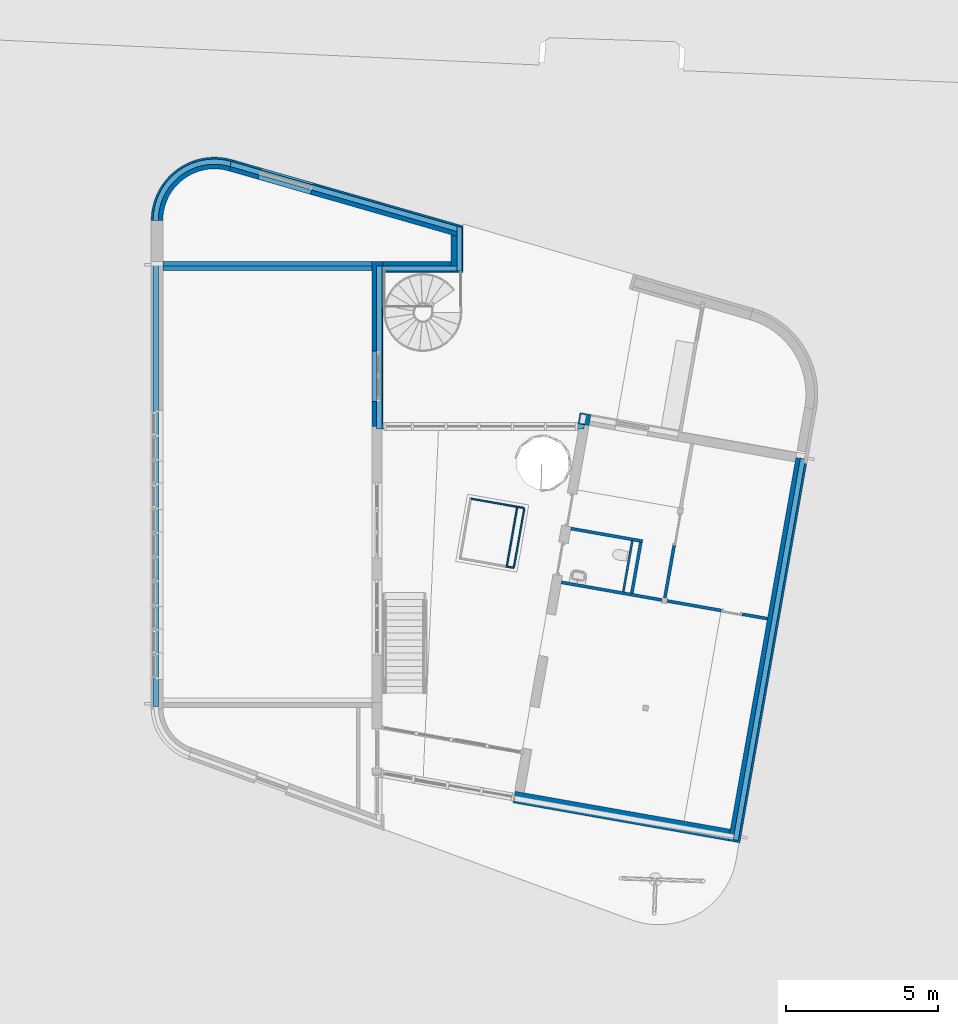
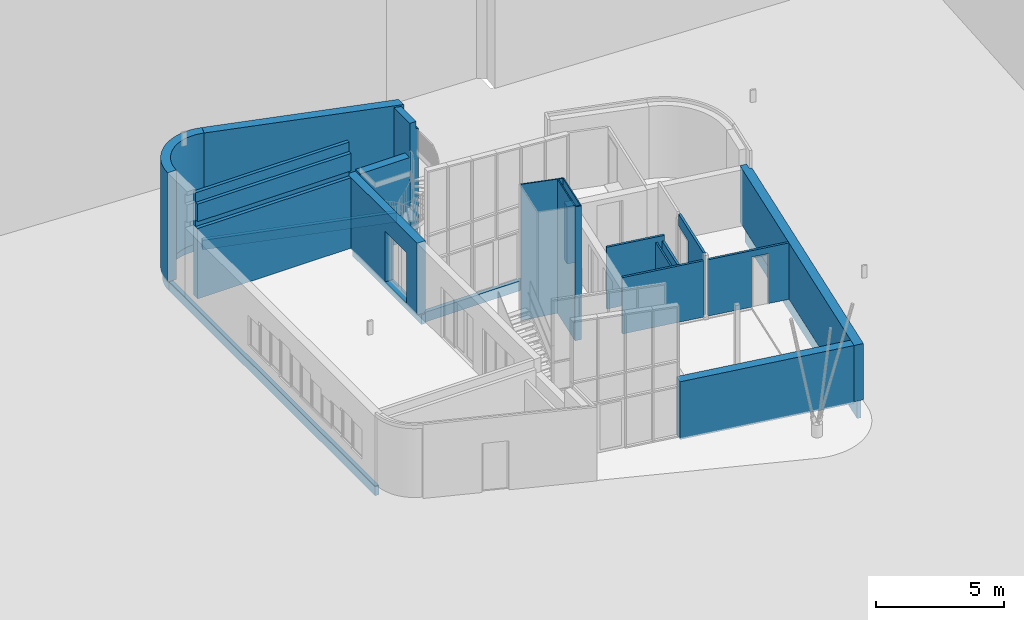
# One storey, part 12 of 21: 30 walls, 5 openings.
"""IFC2X3 building model written with IfcOpenShell, lengths in millimetres."""

import ifcopenshell
import ifcopenshell.guid

model = None  # the IFC model being written
_history = None  # IfcOwnerHistory: only IFC2X3 demands one
_inside = {}  # id of a spatial element -> (the spatial element, [elements in it])
_under = {}  # id of a project, library or spatial element -> (it, [spatial elements below it])
_declared = {}  # id of a project -> (the project, [libraries it declares])
_typed = {}  # id of a type object -> (the type object, [elements of that type])
_made_of = {}  # id of a material, layer set ... -> (it, [elements and type objects made of it])


def new_model(schema):
    """Start an empty IFC model of exactly this schema.

    Asked for "IFC4X3", IfcOpenShell would pick the latest addendum, in which some entities
    have other attributes; the version numbers below select the first issue.
    IFC2X3 requires an IfcOwnerHistory on every rooted entity: one is made here for all.
    """
    global model, _history
    if schema == "IFC4X3":
        model = ifcopenshell.file(schema_version=(4, 3, 0, 0))
    else:
        model = ifcopenshell.file(schema=schema)
    _inside.clear()
    _under.clear()
    _declared.clear()
    _typed.clear()
    _made_of.clear()
    _history = None
    if model.schema == "IFC2X3":
        org = make("IfcOrganization", Name="unknown")
        user = make(
            "IfcPersonAndOrganization",
            ThePerson=make("IfcPerson", FamilyName="unknown"),
            TheOrganization=org,
        )
        app = make(
            "IfcApplication",
            ApplicationDeveloper=org,
            Version="unknown",
            ApplicationFullName="unknown",
            ApplicationIdentifier="unknown",
        )
        _history = make(
            "IfcOwnerHistory",
            OwningUser=user,
            OwningApplication=app,
            ChangeAction="ADDED",
            CreationDate=0,
        )
    return model


def make(cls, **values):
    """One entity of the class cls with the attributes given. An attribute that is None is left unset."""
    return model.create_entity(
        cls, **{name: value for name, value in values.items() if value is not None}
    )


def entity(cls, *values):
    """Any entity or typed value of the class cls, its attributes in the order of the schema. None: left unset."""
    e = model.create_entity(cls)
    for i, value in enumerate(values):
        if value is not None:
            e[i] = value
    return e


def rooted(cls, **values):
    """An entity with a GlobalId (a new one), such as an element, a storey or a relation."""
    return make(cls, GlobalId=ifcopenshell.guid.new(), OwnerHistory=_history, **values)


def si_unit(unit_type, name, prefix=None):
    """IfcSIUnit, for example si_unit("LENGTHUNIT", "METRE", prefix="MILLI")."""
    return make("IfcSIUnit", UnitType=unit_type, Prefix=prefix, Name=name)


def converted_unit(unit_type, name, factor, base, dimensions=None, offset=None):
    """IfcConversionBasedUnit, such as the inch: factor (a typed value) times the base unit."""
    return make(
        "IfcConversionBasedUnit"
        if offset is None
        else "IfcConversionBasedUnitWithOffset",
        ConversionOffset=offset,
        Dimensions=None
        if dimensions is None
        else entity("IfcDimensionalExponents", *dimensions),
        UnitType=unit_type,
        Name=name,
        ConversionFactor=make(
            "IfcMeasureWithUnit", ValueComponent=factor, UnitComponent=base
        ),
    )


def derived_unit(unit_type, elements):
    """IfcDerivedUnit: a product of units, each with its exponent."""
    return make(
        "IfcDerivedUnit",
        Elements=[
            make("IfcDerivedUnitElement", Unit=unit, Exponent=power)
            for unit, power in elements
        ],
        UnitType=unit_type,
    )


def assignment(units):
    """IfcUnitAssignment: the units of a project."""
    return None if units is None else make("IfcUnitAssignment", Units=units)


def point(xyz):
    """IfcCartesianPoint."""
    return None if xyz is None else make("IfcCartesianPoint", Coordinates=xyz)


def direction(xyz):
    """IfcDirection."""
    return None if xyz is None else make("IfcDirection", DirectionRatios=xyz)


def frame(location, z_axis=None, x_axis=None):
    """IfcAxis2Placement3D, a coordinate frame: its origin and axes. An axis left out is left unset."""
    return make(
        "IfcAxis2Placement3D",
        Location=point(location),
        Axis=direction(z_axis),
        RefDirection=direction(x_axis),
    )


def frame_2d(location, x_axis=None):
    """IfcAxis2Placement2D, a coordinate frame in the plane: its origin and x axis."""
    return make(
        "IfcAxis2Placement2D", Location=point(location), RefDirection=direction(x_axis)
    )


def origin():
    """The frame at (0, 0, 0) with its axes left unset."""
    return frame((0.0, 0.0, 0.0))


def place(relative_to, where):
    """IfcLocalPlacement: puts the frame where relative to a parent placement (None: the world)."""
    return make(
        "IfcLocalPlacement", PlacementRelTo=relative_to, RelativePlacement=where
    )


def context(
    kind, dimensions, precision=None, world=None, true_north=None, identifier=None
):
    """IfcGeometricRepresentationContext, for example the 3D "Model" context."""
    return make(
        "IfcGeometricRepresentationContext",
        ContextIdentifier=identifier,
        ContextType=kind,
        CoordinateSpaceDimension=dimensions,
        Precision=precision,
        WorldCoordinateSystem=world,
        TrueNorth=true_north,
    )


def subcontext(parent, identifier, kind, view, scale=None):
    """IfcGeometricRepresentationSubContext, for example "Body" below "Model"."""
    return make(
        "IfcGeometricRepresentationSubContext",
        ContextIdentifier=identifier,
        ContextType=kind,
        ParentContext=parent,
        TargetScale=scale,
        TargetView=view,
    )


def project(units=None, contexts=None):
    """IfcProject with its units and contexts."""
    return rooted(
        "IfcProject",
        Name="project",
        RepresentationContexts=contexts,
        UnitsInContext=assignment(units),
    )


def spatial(cls, under=None, at=None, **own):
    """A site, building, storey or space (cls), placed at a placement, below another one or the project."""
    s = rooted(cls, ObjectPlacement=at, **own)
    if under is not None:
        _under.setdefault(under.id(), (under, []))[1].append(s)
    return s


def polyline(points):
    """IfcPolyline through the points."""
    return make("IfcPolyline", Points=[point(p) for p in points])


def circle_curve(where, radius):
    """IfcCircle in the frame where."""
    return make("IfcCircle", Position=where, Radius=radius)


def parameter(value):
    """IfcParameterValue: where a trimmed curve begins or ends, as a parameter of its basis curve."""
    return model.create_entity("IfcParameterValue", value)


def trimmed(basis, trim1, trim2, sense, master):
    """IfcTrimmedCurve: the piece of a basis curve between two trims."""
    return make(
        "IfcTrimmedCurve",
        BasisCurve=basis,
        Trim1=trim1,
        Trim2=trim2,
        SenseAgreement=sense,
        MasterRepresentation=master,
    )


def segment(curve, same_sense, transition):
    """IfcCompositeCurveSegment."""
    return make(
        "IfcCompositeCurveSegment",
        Transition=transition,
        SameSense=same_sense,
        ParentCurve=curve,
    )


def composite_curve(segments, self_intersect=None):
    """IfcCompositeCurve: segments joined end to end."""
    return make("IfcCompositeCurve", Segments=segments, SelfIntersect=self_intersect)


def profile(cls, at=None, kind="AREA", **sizes):
    """A parametric profile (cls). Its sizes go by their IFC names, for example OverallWidth=200.0."""
    return make(cls, ProfileType=kind, Position=at, **sizes)


def rectangle(**sizes):
    """IfcRectangleProfileDef."""
    return profile("IfcRectangleProfileDef", **sizes)


def outline(outer, holes=None, kind="AREA"):
    """IfcArbitraryClosedProfileDef: a profile drawn as a closed curve; with holes, ...WithVoids."""
    if holes is None:
        return make("IfcArbitraryClosedProfileDef", ProfileType=kind, OuterCurve=outer)
    return make(
        "IfcArbitraryProfileDefWithVoids",
        ProfileType=kind,
        OuterCurve=outer,
        InnerCurves=holes,
    )


def extrude(swept, where, along, depth):
    """IfcExtrudedAreaSolid: the profile swept, set in the frame where, extruded along a direction by depth."""
    return make(
        "IfcExtrudedAreaSolid",
        SweptArea=swept,
        Position=where,
        ExtrudedDirection=direction(along),
        Depth=depth,
    )


def clip(a, b, op="DIFFERENCE"):
    """IfcBooleanClippingResult: the solid a cut by the half space b."""
    return make(
        "IfcBooleanClippingResult", Operator=op, FirstOperand=a, SecondOperand=b
    )


def bounded_halfspace(plane, agree, where, boundary):
    """IfcPolygonalBoundedHalfSpace: a half space limited to a polygon's prism."""
    return make(
        "IfcPolygonalBoundedHalfSpace",
        BaseSurface=make("IfcPlane", Position=plane),
        AgreementFlag=agree,
        Position=where,
        PolygonalBoundary=boundary,
    )


def shape(context_of_items, identifier, shape_type, items):
    """IfcShapeRepresentation: the items that make up one representation, for example the "Body"."""
    return make(
        "IfcShapeRepresentation",
        ContextOfItems=context_of_items,
        RepresentationIdentifier=identifier,
        RepresentationType=shape_type,
        Items=items,
    )


def material(Name=None, Category=None):
    """IfcMaterial."""
    return make("IfcMaterial", Name=Name, Category=Category)


def layer(
    of_material, thickness, ventilated=None, Name=None, Category=None, Priority=None
):
    """IfcMaterialLayer: one layer of a wall or slab, of a material (None: an air gap)."""
    return make(
        "IfcMaterialLayer",
        Material=of_material,
        LayerThickness=thickness,
        IsVentilated=ventilated,
        Name=Name,
        Category=Category,
        Priority=Priority,
    )


def layer_set(layers, Name=None):
    """IfcMaterialLayerSet."""
    return make("IfcMaterialLayerSet", MaterialLayers=layers, LayerSetName=Name)


def layer_usage(for_layer_set, set_direction, sense, offset, extent=None):
    """IfcMaterialLayerSetUsage: how a layer set lies in its element."""
    return make(
        "IfcMaterialLayerSetUsage",
        ForLayerSet=for_layer_set,
        LayerSetDirection=set_direction,
        DirectionSense=sense,
        OffsetFromReferenceLine=offset,
        ReferenceExtent=extent,
    )


def made_of(thing, what):
    """Note that an element or type object is made of a material, layer set ...; save() writes the relation."""
    if what is not None:
        _made_of.setdefault(what.id(), (what, []))[1].append(thing)
    return thing


def type_object(cls, material=None, **own):
    """A type object (cls), such as IfcWallType, which elements share."""
    return made_of(rooted(cls, **own), material)


def element(
    cls,
    number,
    at=None,
    inside=None,
    cuts=None,
    type_object=None,
    material=None,
    context=None,
    identifier="Body",
    shape_type=None,
    held_by="IfcProductDefinitionShape",
    body=None,
    shapes=None,
    **own,
):
    """One element of the class cls, such as IfcWall. Its Tag is "e" and its number.

    at: its placement. inside: the storey or other place that contains it. cuts: it is an
    opening in that element (IfcRelVoidsElement). A single representation is given by context,
    identifier, shape_type and body (its items); several are given by shapes. held_by: the class
    of the entity that holds the representations. save() writes the other relations.
    """
    e = rooted(cls, Tag="e%d" % number, ObjectPlacement=at, **own)
    if body is not None:
        shapes = [shape(context, identifier, shape_type, body)]
    if shapes is not None:
        e.Representation = make(held_by, Representations=shapes)
    if inside is not None:
        _inside.setdefault(inside.id(), (inside, []))[1].append(e)
    if cuts is not None:
        rooted(
            "IfcRelVoidsElement", RelatingBuildingElement=cuts, RelatedOpeningElement=e
        )
    if type_object is not None:
        _typed.setdefault(type_object.id(), (type_object, []))[1].append(e)
    return made_of(e, material)


def aggregate(whole, parts):
    """IfcRelAggregates: a whole, such as a stair, and the parts it consists of."""
    return rooted("IfcRelAggregates", RelatingObject=whole, RelatedObjects=parts)


def save(model, path):
    """Write the relations noted so far, then the file.

    IfcRelAggregates (storeys below a building ...), IfcRelContainedInSpatialStructure (elements
    in a storey), IfcRelDefinesByType, IfcRelAssociatesMaterial and IfcRelDeclares: one each for
    every whole, place, type object, material and project.
    """
    for whole, parts in _under.values():
        aggregate(whole, parts)
    for where, things in _inside.values():
        rooted(
            "IfcRelContainedInSpatialStructure",
            RelatedElements=things,
            RelatingStructure=where,
        )
    for kind, things in _typed.values():
        rooted("IfcRelDefinesByType", RelatedObjects=things, RelatingType=kind)
    for what, things in _made_of.values():
        rooted("IfcRelAssociatesMaterial", RelatedObjects=things, RelatingMaterial=what)
    for by, libraries in _declared.values():
        rooted("IfcRelDeclares", RelatingContext=by, RelatedDefinitions=libraries)
    model.write(path)


model = new_model("IFC2X3")

# Units and contexts
model_context = context("Model", 3, precision=0.01, world=origin(), true_north=direction((6.12303176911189e-17, 1.0)))
body_context = subcontext(model_context, "Body", "Model", "MODEL_VIEW")
ifc_project = project(units=[si_unit("LENGTHUNIT", "METRE", prefix="MILLI"), si_unit("AREAUNIT", "SQUARE_METRE"), si_unit("VOLUMEUNIT", "CUBIC_METRE"), converted_unit("PLANEANGLEUNIT", "DEGREE", entity("IfcRatioMeasure", 0.0174532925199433), si_unit("PLANEANGLEUNIT", "RADIAN"), dimensions=[0, 0, 0, 0, 0, 0, 0]), si_unit("MASSUNIT", "GRAM", prefix="KILO"), derived_unit("MASSDENSITYUNIT", [(si_unit("MASSUNIT", "GRAM", prefix="KILO"), 1), (si_unit("LENGTHUNIT", "METRE"), -3)]), derived_unit("MOMENTOFINERTIAUNIT", [(si_unit("LENGTHUNIT", "METRE"), 4)]), si_unit("TIMEUNIT", "SECOND"), si_unit("FREQUENCYUNIT", "HERTZ"), si_unit("THERMODYNAMICTEMPERATUREUNIT", "DEGREE_CELSIUS"), derived_unit("THERMALTRANSMITTANCEUNIT", [(si_unit("MASSUNIT", "GRAM", prefix="KILO"), 1), (si_unit("THERMODYNAMICTEMPERATUREUNIT", "KELVIN"), -1), (si_unit("TIMEUNIT", "SECOND"), -3)]), derived_unit("VOLUMETRICFLOWRATEUNIT", [(si_unit("LENGTHUNIT", "METRE"), 3), (si_unit("TIMEUNIT", "SECOND"), -1)]), si_unit("ELECTRICCURRENTUNIT", "AMPERE"), si_unit("ELECTRICVOLTAGEUNIT", "VOLT"), si_unit("POWERUNIT", "WATT"), si_unit("FORCEUNIT", "NEWTON", prefix="KILO"), si_unit("ILLUMINANCEUNIT", "LUX"), si_unit("LUMINOUSFLUXUNIT", "LUMEN"), si_unit("LUMINOUSINTENSITYUNIT", "CANDELA"), derived_unit("USERDEFINED", [(si_unit("MASSUNIT", "GRAM", prefix="KILO"), -1), (si_unit("LENGTHUNIT", "METRE"), -2), (si_unit("TIMEUNIT", "SECOND"), 3), (si_unit("LUMINOUSFLUXUNIT", "LUMEN"), 1)]), derived_unit("LINEARVELOCITYUNIT", [(si_unit("LENGTHUNIT", "METRE"), 1), (si_unit("TIMEUNIT", "SECOND"), -1)]), si_unit("PRESSUREUNIT", "PASCAL"), derived_unit("USERDEFINED", [(si_unit("LENGTHUNIT", "METRE"), -2), (si_unit("MASSUNIT", "GRAM", prefix="KILO"), 1), (si_unit("TIMEUNIT", "SECOND"), -2)]), derived_unit("LINEARFORCEUNIT", [(si_unit("MASSUNIT", "GRAM", prefix="KILO"), 1), (si_unit("LENGTHUNIT", "METRE"), 1), (si_unit("TIMEUNIT", "SECOND"), -2), (si_unit("LENGTHUNIT", "METRE"), -1)]), derived_unit("PLANARFORCEUNIT", [(si_unit("MASSUNIT", "GRAM", prefix="KILO"), 1), (si_unit("LENGTHUNIT", "METRE"), 1), (si_unit("TIMEUNIT", "SECOND"), -2), (si_unit("LENGTHUNIT", "METRE"), -2)])], contexts=[model_context])

# Site, building, storey
site_placement = place(None, origin())
site = spatial("IfcSite", under=ifc_project, at=site_placement, Name="<Kadaster Gemeente>;<Kadaster nummer>;<Kadaster sectie>", CompositionType="ELEMENT")
building_placement = place(site_placement, origin())
building = spatial("IfcBuilding", under=site, at=building_placement, Name="JRCZ Middelburg", CompositionType="ELEMENT")
storey_placement = place(building_placement, origin())
storey = spatial("IfcBuildingStorey", under=building, at=storey_placement, Name="00 begane grond", CompositionType="ELEMENT", Elevation=0.0)

# Walls
ifc_material_1 = material(Name="RBM_n7_isolatie_hsb_100")
ifc_layer_1 = layer(ifc_material_1, 100.0)
ifc_layer_set_1 = layer_set([ifc_layer_1], Name="Basic Wall:22_WA_metalstud_binnenwand_100mm")
ifc_layer_usage_1 = layer_usage(ifc_layer_set_1, "AXIS2", "NEGATIVE", 50.0)
wall_type_1 = type_object("IfcWallType", Name="Basic Wall:22_WA_metalstud_binnenwand_100mm", PredefinedType="STANDARD", material=ifc_layer_set_1)
wall_1_placement = place(storey_placement, frame((23448.3603228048, 15764.5948268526, 0.0), z_axis=(0.0, 0.0, 1.0), x_axis=(0.984807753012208, -0.173648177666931, 0.0)))
element("IfcWallStandardCase", 1, at=wall_1_placement, inside=storey, type_object=wall_type_1, material=ifc_layer_usage_1, Name="Basic Wall:22_WA_metalstud_binnenwand_100mm", ObjectType="Basic Wall:22_WA_metalstud_binnenwand_100mm", context=body_context, shape_type="Clipping", body=[
    clip(extrude(rectangle(XDim=2400.0, YDim=100.0, at=frame_2d((1356.0, -2.20268248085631e-13), x_axis=(-1.0, 0.0))), origin(), (0.0, 0.0, 1.0), 2936.0), bounded_halfspace(frame((0.0, -50.0, 2936.0), z_axis=(0.0, 0.0, -1.0), x_axis=(0.0, -1.0, 0.0)), True, frame((0.0, -50.0, 2936.0)), polyline([(0.0, 0.0), (2556.0, 0.0), (2556.0, 100.0), (0.0, 100.0), (0.0, 0.0)]))),
])
ifc_layer_usage_2 = layer_usage(ifc_layer_set_1, "AXIS2", "NEGATIVE", 50.0)
wall_2_placement = place(storey_placement, frame((25907.60614297, 15280.1921059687, 0.0), z_axis=(0.0, 0.0, 1.0), x_axis=(-0.173648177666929, -0.984807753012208, 0.0)))
element("IfcWallStandardCase", 2, at=wall_2_placement, inside=storey, type_object=wall_type_1, material=ifc_layer_usage_2, Name="Basic Wall:22_WA_metalstud_binnenwand_100mm", ObjectType="Basic Wall:22_WA_metalstud_binnenwand_100mm", context=body_context, shape_type="SweptSolid", body=[
    extrude(rectangle(XDim=1700.0, YDim=99.999999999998, at=frame_2d((850.000000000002, -7.99360577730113e-13), x_axis=(-1.0, 0.0))), origin(), (0.0, 0.0, 1.0), 2680.0),
])
ifc_layer_usage_3 = layer_usage(ifc_layer_set_1, "AXIS2", "NEGATIVE", 50.0)
wall_3_placement = place(storey_placement, frame((23289.4236124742, 13964.8517557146, 0.0), z_axis=(0.0, 0.0, 1.0), x_axis=(0.984807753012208, -0.173648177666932, 0.0)))
element("IfcWallStandardCase", 3, at=wall_3_placement, inside=storey, type_object=wall_type_1, material=ifc_layer_usage_3, Name="Basic Wall:22_WA_metalstud_binnenwand_100mm", ObjectType="Basic Wall:22_WA_metalstud_binnenwand_100mm", context=body_context, shape_type="SweptSolid", body=[
    extrude(rectangle(XDim=3364.00000000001, YDim=99.9999999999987, at=frame_2d((1682.0, 6.32383034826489e-13), x_axis=(-1.0, 0.0))), origin(), (0.0, 0.0, 1.0), 2680.0),
])

# Wall, opening
ifc_layer_usage_4 = layer_usage(ifc_layer_set_1, "AXIS2", "NEGATIVE", 50.0)
wall_4_placement = place(storey_placement, frame((26779.5822891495, 13349.442614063, 0.0), z_axis=(0.0, 0.0, 1.0), x_axis=(0.984807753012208, -0.173648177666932, 0.0)))
wall_4 = element("IfcWallStandardCase", 4, at=wall_4_placement, inside=storey, type_object=wall_type_1, material=ifc_layer_usage_4, Name="Basic Wall:22_WA_metalstud_binnenwand_100mm", ObjectType="Basic Wall:22_WA_metalstud_binnenwand_100mm", context=body_context, shape_type="SweptSolid", body=[
    extrude(rectangle(XDim=3356.0, YDim=99.9999999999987, at=frame_2d((1678.0, -1.06581410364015e-14), x_axis=(-1.0, 0.0))), origin(), (0.0, 0.0, 1.0), 2680.0),
])
opening_1_placement = place(wall_4_placement, frame((-24054.6338779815, -17796.8602479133, 0.0), z_axis=(0.0, 0.0, 1.0), x_axis=(0.984807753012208, 0.173648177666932, 0.0)))
element("IfcOpeningElement", 5, at=opening_1_placement, cuts=wall_4, Name="Basic Wall:22_WA_metalstud_binnenwand_100mm", ObjectType="Opening", context=body_context, shape_type="SweptSolid", body=[
    extrude(rectangle(XDim=2377.0, YDim=704.000000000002, at=frame_2d((0.0, 2.1316282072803e-12), x_axis=(1.0, 0.0))), frame((28648.8400062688, 11523.1032187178, 1188.5), z_axis=(0.173648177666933, 0.984807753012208, 0.0), x_axis=(0.0, 0.0, 1.0)), (0.0, 0.0, 1.0), 3048.0),
])

ifc_layer_usage_5 = layer_usage(ifc_layer_set_1, "AXIS2", "NEGATIVE", 50.0)
wall_5_placement = place(storey_placement, frame((27194.9312800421, 16246.3282203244, 0.0), z_axis=(0.0, 0.0, 1.0), x_axis=(-0.173648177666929, -0.984807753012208, 0.0)))
wall_5 = element("IfcWallStandardCase", 6, at=wall_5_placement, inside=storey, type_object=wall_type_1, material=ifc_layer_usage_5, Name="Basic Wall:22_WA_metalstud_binnenwand_100mm", ObjectType="Basic Wall:22_WA_metalstud_binnenwand_100mm", context=body_context, shape_type="Clipping", body=[
    clip(extrude(rectangle(XDim=2835.0, YDim=99.9999999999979, at=frame_2d((1417.5, 7.24753590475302e-13), x_axis=(-1.0, 0.0))), origin(), (0.0, 0.0, 1.0), 2936.0), bounded_halfspace(frame((0.0, -50.0, 2936.0), z_axis=(0.0, 0.0, -1.0), x_axis=(1.0, 0.0, 0.0)), True, frame((0.0, -50.0, 2936.0)), polyline([(0.0, 0.0), (2835.0, 0.0), (2835.0, 100.0), (0.0, 100.0), (0.0, 0.0)]))),
])
opening_2_placement = place(wall_5_placement, frame((20721.8602479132, -23960.6338779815, 0.0), z_axis=(0.0, 0.0, 1.0), x_axis=(-0.173648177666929, 0.984807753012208, 0.0)))
element("IfcOpeningElement", 7, at=opening_2_placement, cuts=wall_5, Name="Basic Wall:22_WA_metalstud_binnenwand_100mm", ObjectType="Opening", context=body_context, shape_type="SweptSolid", body=[
    extrude(rectangle(XDim=2377.0, YDim=1084.0, at=frame_2d((0.0, 1.4210854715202e-12), x_axis=(1.0, 0.0))), frame((25550.7265645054, 15985.8846498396, 1188.5), z_axis=(0.984807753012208, -0.17364817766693, 0.0), x_axis=(0.0, 0.0, 1.0)), (0.0, 0.0, 1.0), 3048.0),
])

# Wall
ifc_material_2 = material(Name="RBM_i4_multiplex_beplating")
ifc_layer_2 = layer(ifc_material_2, 18.0)
ifc_material_3 = material(Name="RBM_n7_isolatie_hsb_270")
ifc_layer_3 = layer(ifc_material_3, 270.0)
ifc_layer_4 = layer(ifc_material_2, 18.0)
ifc_layer_set_2 = layer_set([ifc_layer_2, ifc_layer_3, ifc_layer_4], Name="Basic Wall:22_WA_hsb_binnenwand_306mm")
ifc_layer_usage_6 = layer_usage(ifc_layer_set_2, "AXIS2", "POSITIVE", -153.0)
wall_type_2 = type_object("IfcWallType", Name="Basic Wall:22_WA_hsb_binnenwand_306mm", PredefinedType="STANDARD", material=ifc_layer_set_2)
wall_6_placement = place(storey_placement, frame((17050.0, 24397.0, 0.0), z_axis=(0.0, 0.0, 1.0), x_axis=(-1.0, 0.0, 0.0)))
element("IfcWallStandardCase", 8, at=wall_6_placement, inside=storey, type_object=wall_type_2, material=ifc_layer_usage_6, Name="Basic Wall:22_WA_hsb_binnenwand_306mm", ObjectType="Basic Wall:22_WA_hsb_binnenwand_306mm", context=body_context, shape_type="SweptSolid", body=[
    extrude(rectangle(XDim=6900.0, YDim=306.0, at=frame_2d((3450.0, -4.54747350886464e-13), x_axis=(-1.0, 0.0))), origin(), (0.0, 0.0, 1.0), 3345.0),
])

# Wall, opening
ifc_material_4 = material(Name="Gevelafwerking")
ifc_layer_5 = layer(ifc_material_4, 30.0)
ifc_material_5 = material(Name="ISR_Luchtspouw")
ifc_layer_6 = layer(ifc_material_5, 35.0)
ifc_layer_7 = layer(ifc_material_5, 35.0)
ifc_layer_8 = layer(ifc_material_3, 270.0)
ifc_layer_9 = layer(ifc_material_2, 18.0)
ifc_layer_set_3 = layer_set([ifc_layer_5, ifc_layer_6, ifc_layer_7, ifc_layer_8, ifc_layer_9], Name="Basic Wall:21_RBM_WA_hsb_270mm_houten bekleding")
ifc_layer_usage_7 = layer_usage(ifc_layer_set_3, "AXIS2", "NEGATIVE", 194.0)
wall_type_3 = type_object("IfcWallType", Name="Basic Wall:21_RBM_WA_hsb_270mm_houten bekleding", PredefinedType="STANDARD", material=ifc_layer_set_3)
wall_7_placement = place(storey_placement, frame((12395.663829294, 27710.985193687, -70.0), z_axis=(0.0, 0.0, 1.0), x_axis=(0.961261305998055, -0.275638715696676, 0.0)))
wall_7 = element("IfcWallStandardCase", 9, at=wall_7_placement, inside=storey, type_object=wall_type_3, material=ifc_layer_usage_7, Name="Basic Wall:21_RBM_WA_hsb_270mm_houten bekleding", ObjectType="Basic Wall:21_RBM_WA_hsb_270mm_houten bekleding", context=body_context, shape_type="SweptSolid", body=[
    extrude(outline(polyline([(8005.5681991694, -194.0), (7894.3103954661, 194.0), (0.0, 194.0), (0.0, -194.0), (7601.93185431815, -194.0), (8005.5681991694, -194.0)])), origin(), (0.0, 0.0, 1.0), 5200.0),
])
opening_3_placement = place(wall_7_placement, origin())
element("IfcOpeningElement", 10, at=opening_3_placement, cuts=wall_7, Name="Basic Wall:21_RBM_WA_hsb_270mm_houten bekleding", ObjectType="Opening", context=body_context, shape_type="SweptSolid", body=[
    extrude(rectangle(XDim=2400.0, YDim=1799.9999999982, at=frame_2d((0.0, 5.11590769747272e-13), x_axis=(1.0, 0.0))), frame((1881.28126453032, -346.399999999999, 1270.0), z_axis=(0.0, 1.0, 0.0), x_axis=(0.0, 0.0, 1.0)), (0.0, 0.0, 1.0), 692.799999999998),
])

# Walls
ifc_layer_usage_8 = layer_usage(ifc_layer_set_3, "AXIS2", "NEGATIVE", 194.0)
wall_8_placement = place(storey_placement, frame((31240.4390874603, 18204.5834590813, -10.0), z_axis=(0.0, 0.0, 1.0), x_axis=(-0.17364817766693, -0.984807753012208, 0.0)))
element("IfcWallStandardCase", 11, at=wall_8_placement, inside=storey, type_object=wall_type_3, material=ifc_layer_usage_8, Name="Basic Wall:21_RBM_WA_hsb_270mm_houten bekleding", ObjectType="Basic Wall:21_RBM_WA_hsb_270mm_houten bekleding", context=body_context, shape_type="Clipping", body=[
    clip(clip(extrude(rectangle(XDim=12994.0, YDim=387.999999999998, at=frame_2d((6497.0, -1.96109795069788e-12), x_axis=(-1.0, 0.0))), origin(), (0.0, 0.0, 1.0), 2676.0), bounded_halfspace(frame((306.0, 94.0, 2676.0), z_axis=(0.0, -1.0, 0.0), x_axis=(1.0, 0.0, 0.0)), True, frame((306.0, 94.0, 2676.0), z_axis=(0.0, -1.0, 0.0), x_axis=(1.0, 0.0, 0.0)), polyline([(0.0, 0.0), (-306.0, 0.0), (-306.0, -2676.0), (0.0, -2676.0), (0.0, 0.0)]))), bounded_halfspace(frame((306.0, 94.0, 0.0), z_axis=(1.0, 0.0, 0.0), x_axis=(0.0, 1.0, 0.0)), True, frame((306.0, 94.0, 0.0), z_axis=(1.0, 0.0, 0.0), x_axis=(0.0, 1.0, 0.0)), polyline([(0.0, 0.0), (100.0, 0.0), (100.0, 2676.0), (0.0, 2676.0), (0.0, 0.0)]))),
])
ifc_layer_usage_9 = layer_usage(ifc_layer_set_3, "AXIS2", "NEGATIVE", 194.0)
wall_9_placement = place(storey_placement, frame((19843.632860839, 25429.1137671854, -70.0), z_axis=(0.0, 0.0, 1.0), x_axis=(0.0, -1.0, 0.0)))
element("IfcWallStandardCase", 12, at=wall_9_placement, inside=storey, type_object=wall_type_3, material=ifc_layer_usage_9, Name="Basic Wall:21_RBM_WA_hsb_270mm_houten bekleding", ObjectType="Basic Wall:21_RBM_WA_hsb_270mm_houten bekleding", context=body_context, shape_type="Clipping", body=[
    clip(clip(extrude(outline(polyline([(1245.11376718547, -194.0), (1245.11376718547, 194.0), (111.2578037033, 194.0), (0.0, -194.0), (879.11376718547, -194.0), (1245.11376718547, -194.0)])), origin(), (0.0, 0.0, 1.0), 5120.0), bounded_halfspace(frame((1245.11376718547, 94.0, 4770.0), z_axis=(0.0, -1.0, 0.0), x_axis=(1.0, 0.0, 0.0)), True, frame((1245.11376718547, 94.0, 4770.0), z_axis=(0.0, -1.0, 0.0), x_axis=(1.0, 0.0, 0.0)), polyline([(0.0, 0.0), (0.0, 350.0), (-1162.53065515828, 350.0), (-1162.53065515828, 0.0), (0.0, 0.0)]))), bounded_halfspace(frame((82.5831120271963, 94.0, 4770.0), z_axis=(0.0, 0.0, -1.0), x_axis=(0.0, 1.0, 0.0)), True, frame((82.5831120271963, 94.0, 4770.0), z_axis=(0.0, 0.0, -1.0), x_axis=(0.0, 1.0, 0.0)), polyline([(0.0, 0.0), (100.0, 28.6746916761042), (100.0, 1162.53065515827), (0.0, 1162.53065515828), (0.0, 0.0)]))),
])
ifc_layer_usage_10 = layer_usage(ifc_layer_set_3, "AXIS2", "POSITIVE", -194.0)
wall_10_placement = place(storey_placement, frame((9956.0, 25897.3321840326, -70.0)))
element("IfcWallStandardCase", 13, at=wall_10_placement, inside=storey, type_object=wall_type_3, material=ifc_layer_usage_10, Name="Basic Wall:21_RBM_WA_hsb_270mm_houten bekleding", ObjectType="Basic Wall:21_RBM_WA_hsb_270mm_houten bekleding", context=body_context, shape_type="SweptSolid", body=[
    extrude(outline(composite_curve([segment(trimmed(circle_curve(frame_2d((1897.07813186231, -4.18188038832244), x_axis=(1.0, 0.0)), 2091.08274108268), [parameter(73.380735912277)], [parameter(179.873698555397)], True, "PARAMETER"), True, "CONTINUOUS"), segment(polyline([(-193.999528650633, 0.42764860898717), (193.99952865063, -0.427648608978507)]), True, "CONTINUOUS"), segment(trimmed(circle_curve(frame_2d((1897.07813186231, -4.18188038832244), x_axis=(1.0, 0.0)), 1703.08274108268), [parameter(73.380735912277)], [parameter(179.873698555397)], True, "PARAMETER"), False, "CONTINUOUS"), segment(polyline([(2384.17778062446, 1627.75707531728), (2495.14987796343, 1999.54894399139)]), True, "CONTINUOUS")], self_intersect=False)), origin(), (0.0, 0.0, 1.0), 5200.0),
])

# Wall, opening
ifc_layer_usage_11 = layer_usage(ifc_layer_set_3, "AXIS2", "NEGATIVE", 194.0)
wall_11_placement = place(storey_placement, frame((28826.6897092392, 5632.73196699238, -80.0), z_axis=(0.0, 0.0, 1.0), x_axis=(-0.984807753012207, 0.173648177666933, 0.0)))
wall_11 = element("IfcWallStandardCase", 14, at=wall_11_placement, inside=storey, type_object=wall_type_3, material=ifc_layer_usage_11, Name="Basic Wall:21_RBM_WA_hsb_270mm_houten bekleding", ObjectType="Basic Wall:21_RBM_WA_hsb_270mm_houten bekleding", context=body_context, shape_type="SweptSolid", body=[
    extrude(rectangle(XDim=7206.00000000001, YDim=388.000000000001, at=frame_2d((3603.0, -3.26849658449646e-13), x_axis=(-1.0, 0.0))), origin(), (0.0, 0.0, 1.0), 2746.0),
])
opening_4_placement = place(wall_11_placement, origin())
element("IfcOpeningElement", 15, at=opening_4_placement, cuts=wall_11, Name="Basic Wall:21_RBM_WA_hsb_270mm_houten bekleding", ObjectType="Opening", context=body_context, shape_type="SweptSolid", body=[
    extrude(outline(polyline([(-3198.84401428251, -2225.15688649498), (3031.95724779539, -2225.15688649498), (3365.73078076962, 2225.15688649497), (-3198.84401428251, 2225.15688649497), (-3198.84401428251, -2225.15688649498)])), frame((9431.15688649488, -346.399999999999, 3278.8440142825), z_axis=(0.0, 1.0, 0.0), x_axis=(0.0, 0.0, 1.0)), (0.0, 0.0, 1.0), 692.799999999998),
])

# Walls
ifc_material_6 = material(Name="RBM_f7_gips_beplating wand")
ifc_layer_10 = layer(ifc_material_6, 12.5)
ifc_material_7 = material(Name="RBM_n7_isolatie_MS45")
ifc_layer_11 = layer(ifc_material_7, 45.0)
ifc_layer_12 = layer(ifc_material_6, 12.5)
ifc_layer_set_4 = layer_set([ifc_layer_10, ifc_layer_11, ifc_layer_12], Name="Basic Wall:22_RBM_WA_metalstud_70_12.5-45-12.5")
ifc_layer_usage_12 = layer_usage(ifc_layer_set_4, "AXIS2", "POSITIVE", -35.0)
wall_type_4 = type_object("IfcWallType", Name="Basic Wall:22_RBM_WA_metalstud_70_12.5-45-12.5", PredefinedType="STANDARD", material=ifc_layer_set_4)
wall_12_placement = place(storey_placement, frame((25626.9359333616, 15329.6818366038, 0.0), z_axis=(0.0, 0.0, 1.0), x_axis=(-0.17364817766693, -0.984807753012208, 0.0)))
element("IfcWallStandardCase", 16, at=wall_12_placement, inside=storey, type_object=wall_type_4, material=ifc_layer_usage_12, Name="Basic Wall:22_RBM_WA_metalstud_70_12.5-45-12.5", ObjectType="Basic Wall:22_RBM_WA_metalstud_70_12.5-45-12.5", context=body_context, shape_type="SweptSolid", body=[
    extrude(rectangle(XDim=1700.0, YDim=70.0000000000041, at=frame_2d((850.000000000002, 1.81543668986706e-12), x_axis=(-1.0, 0.0))), origin(), (0.0, 0.0, 1.0), 2680.0),
])
ifc_material_8 = material(Name="RBM_o1_glas_helder")
ifc_layer_13 = layer(ifc_material_8, 50.0)
ifc_layer_set_5 = layer_set([ifc_layer_13], Name="Basic Wall:22_RBM_WA_ontwerpwand-40mm_transparant")
ifc_layer_usage_13 = layer_usage(ifc_layer_set_5, "AXIS2", "NEGATIVE", 25.0)
wall_type_5 = type_object("IfcWallType", Name="Basic Wall:22_RBM_WA_ontwerpwand-40mm_transparant", PredefinedType="STANDARD", material=ifc_layer_set_5)
wall_13_placement = place(storey_placement, frame((20320.6962938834, 16720.9397822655, -20.0), z_axis=(0.0, 0.0, 1.0), x_axis=(0.984807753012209, -0.173648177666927, 0.0)))
element("IfcWallStandardCase", 17, at=wall_13_placement, inside=storey, type_object=wall_type_5, material=ifc_layer_usage_13, Name="Basic Wall:22_RBM_WA_ontwerpwand-40mm_transparant", ObjectType="Basic Wall:22_RBM_WA_ontwerpwand-40mm_transparant", context=body_context, shape_type="Clipping", body=[
    clip(extrude(outline(polyline([(1513.51621898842, -25.0), (1513.507698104, 25.0), (0.0, 25.0), (0.0, -25.0), (1513.51621898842, -25.0)])), origin(), (0.0, 0.0, 1.0), 6483.01741281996), bounded_halfspace(frame((0.0, -25.0, 6483.01741281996), z_axis=(-0.0747899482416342, 0.0, -0.997199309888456), x_axis=(-0.997199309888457, 0.0, 0.0747899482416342)), True, frame((0.0, -25.0, 6483.01741281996)), polyline([(0.0, 0.0), (1513.51621898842, 0.0), (1513.50769810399, 50.0), (0.0, 50.0), (0.0, 0.0)]))),
])
ifc_material_9 = material(Name="<Unnamed>")
ifc_layer_14 = layer(ifc_material_9, 50.0)
ifc_layer_set_6 = layer_set([ifc_layer_14], Name="Basic Wall:22_RBM_WA_ontwerpwand-40mm")
ifc_layer_usage_14 = layer_usage(ifc_layer_set_6, "AXIS2", "NEGATIVE", 25.0)
wall_type_6 = type_object("IfcWallType", Name="Basic Wall:22_RBM_WA_ontwerpwand-40mm", PredefinedType="STANDARD", material=ifc_layer_set_6)
wall_14_placement = place(storey_placement, frame((21721.4337001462, 14443.0987608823, -20.0), z_axis=(0.0, 0.0, 1.0), x_axis=(-0.984807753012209, 0.173648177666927, 0.0)))
element("IfcWallStandardCase", 18, at=wall_14_placement, inside=storey, type_object=wall_type_6, material=ifc_layer_usage_14, Name="Basic Wall:22_RBM_WA_ontwerpwand-40mm", ObjectType="Basic Wall:22_RBM_WA_ontwerpwand-40mm", context=body_context, shape_type="Clipping", body=[
    clip(extrude(outline(polyline([(261.151466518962, -25.0), (261.142945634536, 25.0), (0.0, 25.0), (0.0, -25.0), (25.0, -25.0), (211.151465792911, -25.0), (261.151466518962, -25.0)])), origin(), (0.0, 0.0, 1.0), 6369.47877280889), bounded_halfspace(frame((0.0, -25.0, 6349.89241281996), z_axis=(0.0747899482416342, 0.0, -0.997199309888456), x_axis=(0.997199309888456, 0.0, 0.0747899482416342)), True, frame((0.0, -25.0, 6349.89241281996)), polyline([(0.0, 0.0), (25.0, 0.0), (211.151465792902, 0.0), (261.15146651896, 0.0), (261.142945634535, 50.0), (0.0, 50.0), (0.0, 0.0)]))),
])
ifc_layer_usage_15 = layer_usage(ifc_layer_set_6, "AXIS2", "NEGATIVE", 25.0)
wall_15_placement = place(storey_placement, frame((22064.3888510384, 16388.0940730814, -20.0), z_axis=(0.0, 0.0, 1.0), x_axis=(-0.17364817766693, -0.984807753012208, 0.0)))
element("IfcWallStandardCase", 19, at=wall_15_placement, inside=storey, type_object=wall_type_6, material=ifc_layer_usage_15, Name="Basic Wall:22_RBM_WA_ontwerpwand-40mm", ObjectType="Basic Wall:22_RBM_WA_ontwerpwand-40mm", context=body_context, shape_type="Clipping", body=[
    clip(extrude(rectangle(XDim=1950.00000000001, YDim=49.9999999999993, at=frame_2d((975.000000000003, 8.06466005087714e-13), x_axis=(-1.0, 0.0))), origin(), (0.0, 0.0, 1.0), 6351.76741281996), bounded_halfspace(frame((0.0, -25.0, 6351.76741281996), z_axis=(0.0, -0.0747899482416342, -0.997199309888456), x_axis=(0.0, -0.997199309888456, 0.0747899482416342)), True, frame((0.0, -25.0, 6351.76741281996)), polyline([(0.0, 0.0), (1950.0, 0.0), (1950.0, 25.0), (1950.0, 50.0), (0.0, 50.0), (0.0, 0.0)]))),
])
ifc_layer_usage_16 = layer_usage(ifc_layer_set_6, "AXIS2", "NEGATIVE", 25.0)
wall_16_placement = place(storey_placement, frame((21811.2104092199, 16458.1219286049, -20.0), z_axis=(0.0, 0.0, 1.0), x_axis=(0.984807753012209, -0.173648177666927, 0.0)))
element("IfcWallStandardCase", 20, at=wall_16_placement, inside=storey, type_object=wall_type_6, material=ifc_layer_usage_16, Name="Basic Wall:22_RBM_WA_ontwerpwand-40mm", ObjectType="Basic Wall:22_RBM_WA_ontwerpwand-40mm", context=body_context, shape_type="SweptSolid", body=[
    extrude(outline(polyline([(261.492301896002, -25.0), (261.492301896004, 25.0), (0.0, 25.0), (0.00852088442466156, -25.0), (50.0085216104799, -25.0), (236.492301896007, -25.0), (261.492301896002, -25.0)])), origin(), (0.0, 0.0, 1.0), 6363.36677278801),
])
ifc_layer_usage_17 = layer_usage(ifc_layer_set_6, "AXIS2", "NEGATIVE", 25.0)
wall_17_placement = place(storey_placement, frame((21493.2103707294, 14508.7220306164, -20.0), z_axis=(0.0, 0.0, 1.0), x_axis=(0.173480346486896, 0.984837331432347, 0.0)))
element("IfcWallStandardCase", 21, at=wall_17_placement, inside=storey, type_object=wall_type_6, material=ifc_layer_usage_17, Name="Basic Wall:22_RBM_WA_ontwerpwand-40mm", ObjectType="Basic Wall:22_RBM_WA_ontwerpwand-40mm", context=body_context, shape_type="Clipping", body=[
    clip(extrude(outline(polyline([(1950.00002831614, -25.0), (1950.00854920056, 25.0), (0.00852088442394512, 25.0), (0.0, -25.0), (1950.00002831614, -25.0)])), origin(), (0.0, 0.0, 1.0), 6369.50369639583), bounded_halfspace(frame((0.0, -25.0, 6365.72877275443), z_axis=(1.27455299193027e-05, 0.0747899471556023, -0.997199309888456), x_axis=(0.00016994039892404, 0.997199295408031, 0.0747899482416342)), True, frame((0.0, -25.0, 6365.72877275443)), polyline([(0.0, 0.0), (1950.00002831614, 0.0), (1950.00854920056, 50.0), (0.00852088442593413, 50.0), (0.0, 0.0)]))),
])
ifc_material_10 = material(Name="geisoleerde cementvezelplaat")
ifc_layer_15 = layer(ifc_material_10, 20.0)
ifc_material_11 = material(Name="RBM_n7_isolatie_resol")
ifc_layer_16 = layer(ifc_material_11, 150.0)
ifc_layer_set_7 = layer_set([ifc_layer_15, ifc_layer_16], Name="Basic Wall:21_RBM_WA_170mm_geïsoleerde_kantplank")
ifc_layer_usage_18 = layer_usage(ifc_layer_set_7, "AXIS2", "NEGATIVE", 85.0)
wall_type_7 = type_object("IfcWallType", Name="Basic Wall:21_RBM_WA_170mm_geïsoleerde_kantplank", PredefinedType="STANDARD", material=ifc_layer_set_7)
wall_18_placement = place(storey_placement, frame((9915.0, 9866.96916420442, -520.0), z_axis=(0.0, 0.0, 1.0), x_axis=(0.0, 1.0, 0.0)))
element("IfcWallStandardCase", 22, at=wall_18_placement, inside=storey, type_object=wall_type_7, material=ifc_layer_usage_18, Name="Basic Wall:21_RBM_WA_170mm_geïsoleerde_kantplank", ObjectType="Basic Wall:21_RBM_WA_170mm_geïsoleerde_kantplank", context=body_context, shape_type="SweptSolid", body=[
    extrude(outline(polyline([(16030.1434299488, -85.0), (16030.1434299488, 85.0), (0.0, 85.0), (0.312299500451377, -85.0), (16030.1434299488, -85.0)])), origin(), (0.0, 0.0, 1.0), 450.0),
])
ifc_layer_usage_19 = layer_usage(ifc_layer_set_7, "AXIS2", "NEGATIVE", 85.0)
wall_19_placement = place(storey_placement, frame((12383.6373887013, 27757.3648549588, -520.0), z_axis=(0.0, 0.0, 1.0), x_axis=(0.961261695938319, -0.275637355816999, 0.0)))
element("IfcWallStandardCase", 23, at=wall_19_placement, inside=storey, type_object=wall_type_7, material=ifc_layer_usage_19, Name="Basic Wall:21_RBM_WA_170mm_geïsoleerde_kantplank", ObjectType="Basic Wall:21_RBM_WA_170mm_geïsoleerde_kantplank", context=body_context, shape_type="SweptSolid", body=[
    extrude(outline(polyline([(7785.00243898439, -85.0), (7736.2557234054, 85.0), (0.0, 85.0), (0.0, -85.0), (7785.00243898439, -85.0)])), origin(), (0.0, 0.0, 1.0), 450.0),
])
ifc_layer_usage_20 = layer_usage(ifc_layer_set_7, "AXIS2", "NEGATIVE", 85.0)
wall_20_placement = place(storey_placement, frame((31253.7270896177, 18043.833874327, -890.0), z_axis=(0.0, 0.0, 1.0), x_axis=(-0.17364817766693, -0.984807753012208, 0.0)))
element("IfcWallStandardCase", 24, at=wall_20_placement, inside=storey, type_object=wall_type_7, material=ifc_layer_usage_20, Name="Basic Wall:21_RBM_WA_170mm_geïsoleerde_kantplank", ObjectType="Basic Wall:21_RBM_WA_170mm_geïsoleerde_kantplank", context=body_context, shape_type="SweptSolid", body=[
    extrude(rectangle(XDim=12770.0, YDim=170.000000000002, at=frame_2d((6384.99999999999, -2.62900812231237e-13), x_axis=(-1.0, 0.0))), origin(), (0.0, 0.0, 1.0), 880.000000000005),
])
ifc_layer_usage_21 = layer_usage(ifc_layer_set_7, "AXIS2", "NEGATIVE", 85.0)
wall_21_placement = place(storey_placement, frame((19928.632860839, 25706.67102759, -520.0), z_axis=(0.0, 0.0, 1.0), x_axis=(0.0, -1.0, 0.0)))
element("IfcWallStandardCase", 25, at=wall_21_placement, inside=storey, type_object=wall_type_7, material=ifc_layer_usage_21, Name="Basic Wall:21_RBM_WA_170mm_geïsoleerde_kantplank", ObjectType="Basic Wall:21_RBM_WA_170mm_geïsoleerde_kantplank", context=body_context, shape_type="SweptSolid", body=[
    extrude(outline(polyline([(1479.67102759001, -85.0), (1479.67102759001, 85.0), (48.746715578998, 85.0), (0.0, -85.0), (176.850904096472, -85.0), (1309.67102759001, -85.0), (1479.67102759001, -85.0)])), origin(), (0.0, 0.0, 1.0), 450.0),
])
ifc_layer_usage_22 = layer_usage(ifc_layer_set_7, "AXIS2", "NEGATIVE", 85.0)
wall_22_placement = place(storey_placement, frame((17285.0, 24397.0, -520.0), z_axis=(0.0, 0.0, 1.0), x_axis=(0.0, -1.0, 0.0)))
element("IfcWallStandardCase", 26, at=wall_22_placement, inside=storey, type_object=wall_type_7, material=ifc_layer_usage_22, Name="Basic Wall:21_RBM_WA_170mm_geïsoleerde_kantplank", ObjectType="Basic Wall:21_RBM_WA_170mm_geïsoleerde_kantplank", context=body_context, shape_type="SweptSolid", body=[
    extrude(rectangle(XDim=5369.37661213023, YDim=170.0, at=frame_2d((2684.68830606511, -2.48689957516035e-13), x_axis=(-1.0, 0.0))), origin(), (0.0, 0.0, 1.0), 450.0),
])
ifc_layer_usage_23 = layer_usage(ifc_layer_set_7, "AXIS2", "POSITIVE", -85.0)
wall_23_placement = place(storey_placement, frame((17370.0, 24312.0, -520.0)))
element("IfcWallStandardCase", 27, at=wall_23_placement, inside=storey, type_object=wall_type_7, material=ifc_layer_usage_23, Name="Basic Wall:21_RBM_WA_170mm_geïsoleerde_kantplank", ObjectType="Basic Wall:21_RBM_WA_170mm_geïsoleerde_kantplank", context=body_context, shape_type="SweptSolid", body=[
    extrude(rectangle(XDim=2473.63286083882, YDim=169.999999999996, at=frame_2d((1236.81643041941, 3.76587649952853e-13), x_axis=(-1.0, 0.0))), origin(), (0.0, 0.0, 1.0), 450.0),
])
ifc_layer_usage_24 = layer_usage(ifc_layer_set_7, "AXIS2", "NEGATIVE", 85.0)
wall_24_placement = place(storey_placement, frame((17370.0, 19112.6233878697, -460.0)))
element("IfcWallStandardCase", 28, at=wall_24_placement, inside=storey, type_object=wall_type_7, material=ifc_layer_usage_24, Name="Basic Wall:21_RBM_WA_170mm_geïsoleerde_kantplank", ObjectType="Basic Wall:21_RBM_WA_170mm_geïsoleerde_kantplank", context=body_context, shape_type="SweptSolid", body=[
    extrude(outline(polyline([(0.0, 85.0), (0.0, -85.0), (1871.00719844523, -85.0), (6659.81285660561, -85.0), (6689.78844332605, 85.0), (0.0, 85.0)])), origin(), (0.0, 0.0, 1.0), 460.000000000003),
])
ifc_layer_usage_25 = layer_usage(ifc_layer_set_7, "AXIS2", "POSITIVE", -85.0)
wall_25_placement = place(storey_placement, frame((9915.0, 25897.1125941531, -520.0)))
element("IfcWallStandardCase", 29, at=wall_25_placement, inside=storey, type_object=wall_type_7, material=ifc_layer_usage_25, Name="Basic Wall:21_RBM_WA_170mm_geïsoleerde_kantplank", ObjectType="Basic Wall:21_RBM_WA_170mm_geïsoleerde_kantplank", context=body_context, shape_type="SweptSolid", body=[
    extrude(outline(composite_curve([segment(trimmed(circle_curve(frame_2d((1935.21863656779, 0.0), x_axis=(1.0, 0.0)), 2020.21863656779), [parameter(74.0)], [parameter(180.0)], True, "PARAMETER"), True, "CONTINUOUS"), segment(polyline([(-85.0, 0.0), (85.0, 0.0)]), True, "CONTINUOUS"), segment(trimmed(circle_curve(frame_2d((1935.21863656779, 0.0), x_axis=(1.0, 0.0)), 1850.21863656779), [parameter(74.0)], [parameter(180.0)], True, "PARAMETER"), False, "CONTINUOUS"), segment(polyline([(2445.20800923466, 1778.54430444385), (2492.06635972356, 1941.95879275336)]), True, "CONTINUOUS")], self_intersect=False)), origin(), (0.0, 0.0, 1.0), 450.0),
])
ifc_material_12 = material(Name="gevel antraciet")
ifc_layer_17 = layer(ifc_material_12, 8.0)
ifc_layer_18 = layer(ifc_material_5, 35.0)
ifc_layer_19 = layer(ifc_material_5, 35.0)
ifc_layer_20 = layer(ifc_material_3, 270.0)
ifc_layer_21 = layer(ifc_material_2, 18.0)
ifc_layer_set_8 = layer_set([ifc_layer_17, ifc_layer_18, ifc_layer_19, ifc_layer_20, ifc_layer_21], Name="Basic Wall:21_RBM_WA_hsb_270mm_ rockpanel")
ifc_layer_usage_26 = layer_usage(ifc_layer_set_8, "AXIS2", "NEGATIVE", 183.0)
wall_type_8 = type_object("IfcWallType", Name="Basic Wall:21_RBM_WA_hsb_270mm_ rockpanel", PredefinedType="STANDARD", material=ifc_layer_set_8)
wall_26_placement = place(storey_placement, frame((24020.8567264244, 19166.8700755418, -80.0), z_axis=(0.0, 0.0, 1.0), x_axis=(0.17364817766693, 0.984807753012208, 0.0)))
element("IfcWallStandardCase", 30, at=wall_26_placement, inside=storey, type_object=wall_type_8, material=ifc_layer_usage_26, Name="Basic Wall:21_RBM_WA_hsb_270mm_ rockpanel", ObjectType="Basic Wall:21_RBM_WA_hsb_270mm_ rockpanel", context=body_context, shape_type="SweptSolid", body=[
    extrude(rectangle(XDim=366.000000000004, YDim=365.999999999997, at=frame_2d((183.000000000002, 1.17950094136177e-12), x_axis=(-1.0, 0.0))), origin(), (0.0, 0.0, 1.0), 2725.0),
])

# Wall, opening
ifc_layer_usage_27 = layer_usage(ifc_layer_set_8, "AXIS2", "NEGATIVE", 183.0)
wall_27_placement = place(storey_placement, frame((17233.0, 24550.0, -70.0), z_axis=(0.0, 0.0, 1.0), x_axis=(0.0, -1.0, 0.0)))
wall_27 = element("IfcWallStandardCase", 31, at=wall_27_placement, inside=storey, type_object=wall_type_8, material=ifc_layer_usage_27, Name="Basic Wall:21_RBM_WA_hsb_270mm_ rockpanel", ObjectType="Basic Wall:21_RBM_WA_hsb_270mm_ rockpanel", context=body_context, shape_type="SweptSolid", body=[
    extrude(rectangle(XDim=5446.37661213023, YDim=365.999999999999, at=frame_2d((2723.18830606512, -1.84741111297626e-13), x_axis=(-1.0, 0.0))), origin(), (0.0, 0.0, 1.0), 3415.0),
])
opening_5_placement = place(wall_27_placement, origin())
element("IfcOpeningElement", 32, at=opening_5_placement, cuts=wall_27, Name="Basic Wall:21_RBM_WA_hsb_270mm_ rockpanel", ObjectType="Opening", context=body_context, shape_type="SweptSolid", body=[
    extrude(rectangle(XDim=2400.0, YDim=1667.0, at=frame_2d((0.0, 2.1600499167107e-12), x_axis=(1.0, 0.0))), frame((3786.48930167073, -335.400000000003, 1270.0), z_axis=(0.0, 1.0, 0.0), x_axis=(0.0, 0.0, 1.0)), (0.0, 0.0, 1.0), 670.799999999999),
])

# Walls
ifc_layer_usage_28 = layer_usage(ifc_layer_set_8, "AXIS2", "POSITIVE", -183.0)
wall_28_placement = place(storey_placement, frame((17416.0, 24367.0, -70.0)))
element("IfcWallStandardCase", 33, at=wall_28_placement, inside=storey, type_object=wall_type_8, material=ifc_layer_usage_28, Name="Basic Wall:21_RBM_WA_hsb_270mm_ rockpanel", ObjectType="Basic Wall:21_RBM_WA_hsb_270mm_ rockpanel", context=body_context, shape_type="SweptSolid", body=[
    extrude(rectangle(XDim=2233.6328608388, YDim=366.000000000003, at=frame_2d((1116.8164304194, -8.5265128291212e-14), x_axis=(-1.0, 0.0))), origin(), (0.0, 0.0, 1.0), 3500.0),
])
ifc_layer_22 = layer(ifc_material_3, 132.0)
ifc_layer_23 = layer(ifc_material_2, 18.0)
ifc_layer_set_9 = layer_set([ifc_layer_22, ifc_layer_23], Name="Basic Wall:22_hsb_270 passtrook")
ifc_layer_usage_29 = layer_usage(ifc_layer_set_9, "AXIS2", "POSITIVE", -75.0)
wall_type_9 = type_object("IfcWallType", Name="Basic Wall:22_hsb_270 passtrook", PredefinedType="STANDARD", material=ifc_layer_set_9)
wall_29_placement = place(storey_placement, frame((17050.0, 24325.0, 3665.0), z_axis=(0.0, 0.0, 1.0), x_axis=(-1.0, 0.0, 0.0)))
element("IfcWallStandardCase", 34, at=wall_29_placement, inside=storey, type_object=wall_type_9, material=ifc_layer_usage_29, Name="Basic Wall:22_hsb_270 passtrook", ObjectType="Basic Wall:22_hsb_270 passtrook", context=body_context, shape_type="SweptSolid", body=[
    extrude(rectangle(XDim=6900.0, YDim=150.000000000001, at=frame_2d((3450.0, -4.47641923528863e-13), x_axis=(-1.0, 0.0))), origin(), (0.0, 0.0, 1.0), 835.000000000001),
])
ifc_layer_usage_30 = layer_usage(ifc_layer_set_9, "AXIS2", "NEGATIVE", 75.0)
wall_30_placement = place(storey_placement, frame((17050.0, 24475.0, 3345.0), z_axis=(0.0, 0.0, 1.0), x_axis=(-1.0, 0.0, 0.0)))
element("IfcWallStandardCase", 35, at=wall_30_placement, inside=storey, type_object=wall_type_9, material=ifc_layer_usage_30, Name="Basic Wall:22_hsb_270 passtrook", ObjectType="Basic Wall:22_hsb_270 passtrook", context=body_context, shape_type="SweptSolid", body=[
    extrude(rectangle(XDim=6900.0, YDim=150.000000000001, at=frame_2d((3450.0, -6.67910171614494e-13), x_axis=(-1.0, 0.0))), origin(), (0.0, 0.0, 1.0), 1605.0),
])

save(model, "model.ifc")
